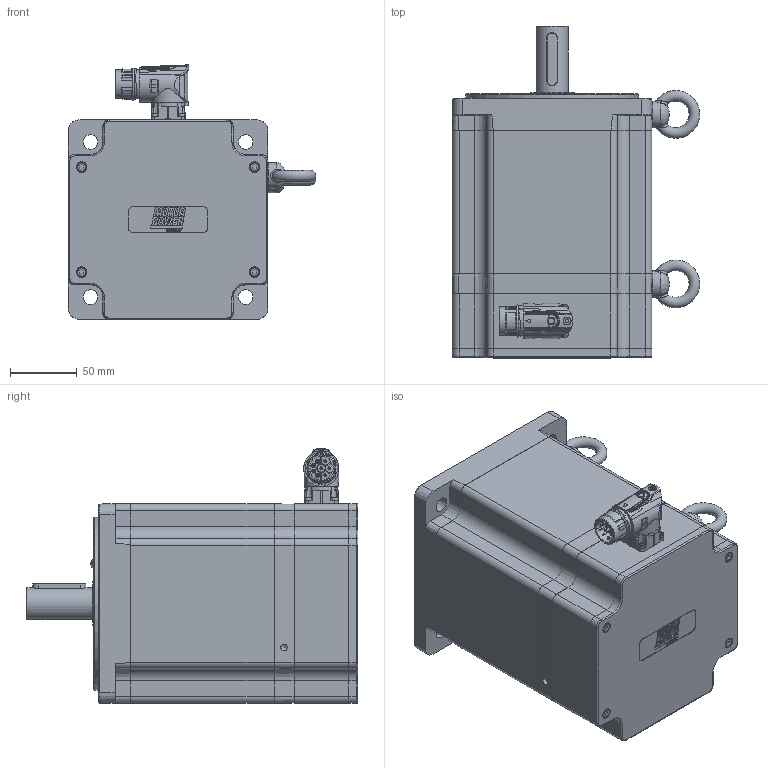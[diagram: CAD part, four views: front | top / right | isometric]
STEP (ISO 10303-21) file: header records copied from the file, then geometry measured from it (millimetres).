
FILE_DESCRIPTION(/* description */ ('Unknown'),/* implementation_level */ '2;1');
FILE_NAME(/* name */ 'TC4-150.6A.XX.X. 3.M1.0.X .C21 Q0C701',/* time_stamp */ '2026-03-06T16:34:35+01:00',/* author */ ('Unknown'),/* organization */ ('Unknown'),/* preprocessor_version */ 'ST-DEVELOPER v19.4',/* originating_system */ 'Solid Edge',/* authorisation */ 'Unknown');
FILE_SCHEMA (('AUTOMOTIVE_DESIGN {1 0 10303 214 3 1 1}'));
Products named in the file (14): Q0C701 6A M1 VUOTO; Distanziale calotta-tappo TC4-150; 005113000600; 003003200239; 005321000040; 005911000252; 003103040237; 007117000456; 005911000223; Coperchio campana TC4-150; Dispersore TC4 150 6A single cable; 005119002043; 005911000185; 003251040619
Assembly tree (23 placements, depth 2):
  Q0C701 6A M1 VUOTO
    Distanziale calotta-tappo TC4-150
    005113000600
    003003200239
    005321000040  x2
    005911000252  x4
    003103040237
    007117000456
    005911000223  x4
    Coperchio campana TC4-150
    Dispersore TC4 150 6A single cable
    005119002043
    005911000185  x4
    003251040619
Bounding box: 185.96 x 249.5 x 191.5 mm (x, y, z)
Volume: 1742798.8 mm3; surface area: 451835.3 mm2
Topology: 24 solids, 24 shells, 1798 faces, 4457 edges, 2843 vertices
Faces by surface type: plane 821, cylinder 372, bspline 301, cone 168, torus 114, sphere 22
Full cylindrical faces by diameter (mm): 1 x4, 1.4 x4, 2 x4, 2.013 x4, 2.459 x2, 2.5 x4, 2.8 x4, 3 x8, 3.2 x1, 3.242 x8, 4 x4, 4.134 x20, 4.5 x9, 4.7 x4, 4.917 x6, 5 x6, 5.5 x9, 5.8 x1, 5.9 x1, 6 x3, 6.647 x2, 6.8 x1, 7 x4, 8 x8, 8.4 x1, 8.5 x4, 9 x4, 10 x5, 11 x4, 17.4 x1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
Entity records: 66310 total; most frequent: CARTESIAN_POINT 19273, ORIENTED_EDGE 7456, DIRECTION 6649, EDGE_CURVE 3728, VERTEX_POINT 2558, AXIS2_PLACEMENT_3D 2492, FACE_BOUND 2190, EDGE_LOOP 2167
